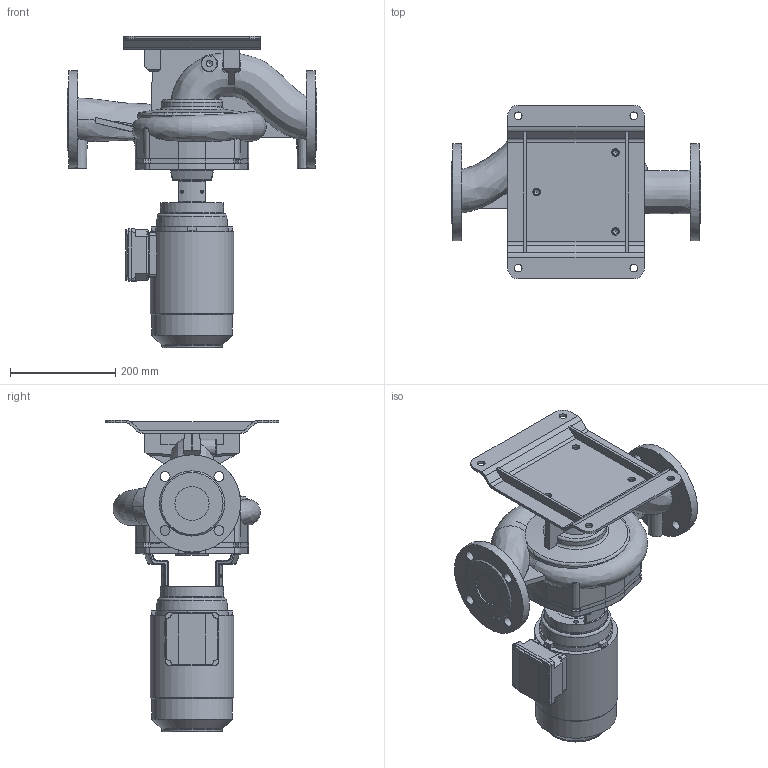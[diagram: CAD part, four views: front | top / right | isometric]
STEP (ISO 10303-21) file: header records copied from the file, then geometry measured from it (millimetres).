
FILE_DESCRIPTION (( 'STEP AP203' ), '1' );
FILE_NAME ('KI65-180_4_0,75kW.STEP', '2024-07-29T11:25:53', ( '' ), ( '' ), 'SwSTEP 2.0', 'SolidWorks 2023', '' );
FILE_SCHEMA (( 'CONFIG_CONTROL_DESIGN' ));
Length unit declared in the file: millimetre
Products named in the file (11): 230034; HMA3_80_2-4_solid; 230033; 230482; 230481; 220544; 230031; 230414; 230415; 220542; KI65-180_4_0,75kW
Assembly tree (11 placements, depth 3):
  KI65-180_4_0,75kW
    HMA3_80_2-4_solid
    230415
      230414
    230482
      230481
    220544
      220542
    230034
      230031
      230033  x2
Bounding box: 475 x 330.18 x 592.95 mm (x, y, z)
Volume: 15160691.1 mm3; surface area: 1040647.9 mm2
Topology: 7 solids, 7 shells, 789 faces, 2020 edges, 1249 vertices
Faces by surface type: plane 277, cylinder 269, bspline 95, torus 68, cone 66, sphere 14
Full cylindrical faces by diameter (mm): 5 x12, 6 x3, 7 x8, 8 x4, 10.2 x7, 11.8 x4, 14 x4, 14.5 x7, 19 x8, 65 x2, 80 x1, 116 x1, 120 x2, 150 x1, 153.6 x1, 158.6 x1, 185 x2, 186 x1, 189 x1
Entity records: 44909 total; most frequent: CARTESIAN_POINT 26193, ORIENTED_EDGE 3662, DIRECTION 3512, EDGE_CURVE 1831, AXIS2_PLACEMENT_3D 1371, VERTEX_POINT 1191, EDGE_LOOP 980, FACE_OUTER_BOUND 854
